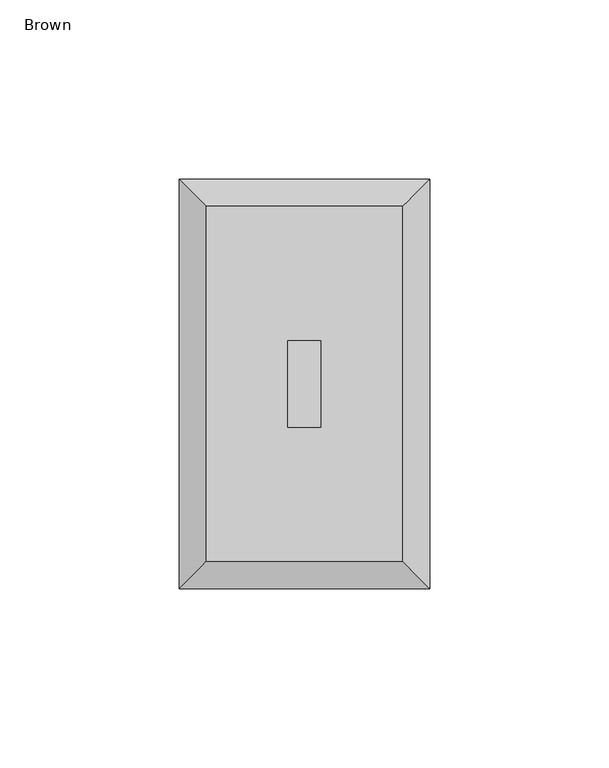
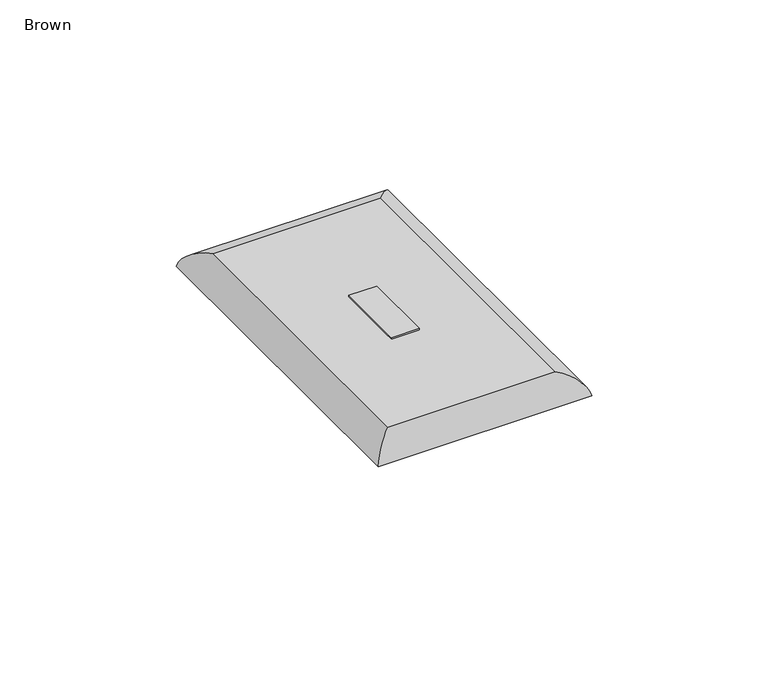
"""IFC4 building model written with IfcOpenShell, lengths in millimetres: proxy geometry, Switch-Wall-Pass_And_Seymour-Toggle : Brown."""

from ifc_helpers import new_model, si_unit, frame, origin, origin_with_axes, place, context, project, spatial, polyline, ellipse_curve, outline, extrude, source, transform, mapped, element, save
from ifc_brep_helpers import plane_surface, cylinder_surface, advanced_brep


def brown_4d2072a2(model_context):
    return source(origin(), model_context, "Body", "SolidModel", [
        extrude(outline(polyline([(4.572, 12.065), (4.572, -12.065), (-4.572, -12.065), (-4.572, 12.065), (4.572, 12.065)])), origin_with_axes(), (0.0, 0.0, 1.0), 6.604),
        advanced_brep(
        [(-27.305, -49.53, 6.35), (27.305, -49.53, 6.35), (27.305, 49.53, 6.35), (-27.305, 49.53, 6.35), (4.572, 12.065, 6.35), (4.572, -12.065, 6.35), (-4.572, -12.065, 6.35), (-4.572, 12.065, 6.35), (34.925, -57.15, 0.0), (-34.925, -57.15, 0.0), (-34.925, 57.15, 0.0), (34.925, 57.15, 0.0), (4.572, -12.065, 0.254), (4.572, 12.065, 0.254), (-4.572, 12.065, 0.254), (-4.572, -12.065, 0.254)],
        [
            (0, 1),
            (1, 2),
            (2, 3),
            (3, 0),
            (4, 5),
            (5, 6),
            (6, 7),
            (7, 4),
            (8, 9),
            (9, 10),
            (10, 11),
            (11, 8),
            (12, 13),
            (13, 14),
            (14, 15),
            (15, 12),
            (12, 5),
            (4, 13),
            (7, 14),
            (6, 15),
            (0, 9, ellipse_curve(frame((-27.305, -49.53, -1.397), z_axis=(0.7071067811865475, -0.7071067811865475, 0.0), x_axis=(-0.7071067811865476, -0.7071067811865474, 0.0)), 10.9559125, 7.747)),
            (8, 1, ellipse_curve(frame((27.305, -49.53, -1.397), z_axis=(-0.7071067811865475, -0.7071067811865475, 0.0), x_axis=(-0.7071067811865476, 0.7071067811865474, 0.0)), 10.9559125, 7.747)),
            (3, 10, ellipse_curve(frame((-27.305, 49.53, -1.397), z_axis=(-0.7071067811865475, -0.7071067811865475, 0.0), x_axis=(-0.7071067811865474, 0.7071067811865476, 0.0)), 10.9559125, 7.747)),
            (2, 11, ellipse_curve(frame((27.305, 49.53, -1.397), z_axis=(-0.7071067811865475, 0.7071067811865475, 0.0), x_axis=(0.7071067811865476, 0.7071067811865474, 0.0)), 10.9559125, 7.747)),
        ],
        [
            plane_surface(frame((-34.925, 57.15, 6.35), z_axis=(0.0, 0.0, 1.0), x_axis=(-1.0, 0.0, 0.0))),
            plane_surface(frame((-34.925, 57.15, 0.0), z_axis=(0.0, 0.0, -1.0), x_axis=(1.0, 0.0, 0.0))),
            plane_surface(frame((4.572, -12.065, 0.254), z_axis=(0.0, 0.0, 1.0), x_axis=(-1.0, 0.0, 0.0))),
            plane_surface(frame((4.572, 12.065, 0.254), z_axis=(-1.0, 0.0, 0.0), x_axis=(0.0, 0.0, 1.0))),
            plane_surface(frame((-4.572, 12.065, 0.254), z_axis=(0.0, -1.0, 0.0), x_axis=(0.0, 0.0, 1.0))),
            plane_surface(frame((-4.572, -12.065, 0.254), z_axis=(1.0, 0.0, 0.0), x_axis=(0.0, 0.0, 1.0))),
            plane_surface(frame((4.572, -12.065, 0.254), z_axis=(0.0, 1.0, 0.0), x_axis=(0.0, 0.0, 1.0))),
            cylinder_surface(frame((34.925, -49.53, -1.397), z_axis=(-1.0, 0.0, 0.0), x_axis=(0.0, -1.0, 0.0)), 7.747),
            cylinder_surface(frame((-27.305, -57.15, -1.397), z_axis=(0.0, 1.0, 0.0), x_axis=(-1.0, 0.0, 0.0)), 7.747),
            cylinder_surface(frame((-34.925, 49.53, -1.397), z_axis=(1.0, 0.0, 0.0), x_axis=(0.0, 1.0, 0.0)), 7.747),
            cylinder_surface(frame((27.305, 57.15, -1.397), z_axis=(0.0, -1.0, 0.0), x_axis=(1.0, 0.0, 0.0)), 7.747),
        ],
        [
            (0, [[1, 2, 3, 4], [5, 6, 7, 8]]),
            (1, [[9, 10, 11, 12]]),
            (2, [[13, 14, 15, 16]]),
            (3, [[-13, 17, -5, 18]]),
            (4, [[-14, -18, -8, 19]]),
            (5, [[-15, -19, -7, 20]]),
            (6, [[-16, -20, -6, -17]]),
            (7, [[21, -9, 22, -1]]),
            (8, [[-21, -4, 23, -10]]),
            (9, [[-23, -3, 24, -11]]),
            (10, [[-22, -12, -24, -2]]),
        ],
    ),
        extrude(outline(polyline([(21.844, 35.179), (21.844, -35.179), (-21.844, -35.179), (-21.844, 35.179), (21.844, 35.179)])), frame((0.0, 0.0, -12.7), z_axis=(0.0, 0.0, 1.0), x_axis=(1.0, 0.0, 0.0)), (0.0, 0.0, 1.0), 12.7),
    ])


if __name__ == "__main__":
    model = new_model("IFC4")
    model_context = context("Model", 3, world=origin())
    ifc_project = project(units=[si_unit("LENGTHUNIT", "METRE", prefix="MILLI")], contexts=[model_context])
    site = spatial("IfcSite", under=ifc_project)
    building = spatial("IfcBuilding", under=site)
    placement = place(None, origin())
    brown_shape = brown_4d2072a2(model_context)
    element("IfcBuildingElementProxy", 1, Name="Switch-Wall-Pass_And_Seymour-Toggle : Brown", ObjectType="Switch-Wall-Pass_And_Seymour-Toggle : Brown", at=placement, inside=building, context=model_context, shape_type="MappedRepresentation", body=[
        mapped(brown_shape, transform((0.0, 0.0, 0.0), x_axis=(1.0, 0.0, 0.0), y_axis=(0.0, 1.0, 0.0), z_axis=(0.0, 0.0, 1.0))),
    ])
    save(model, "model.ifc")
